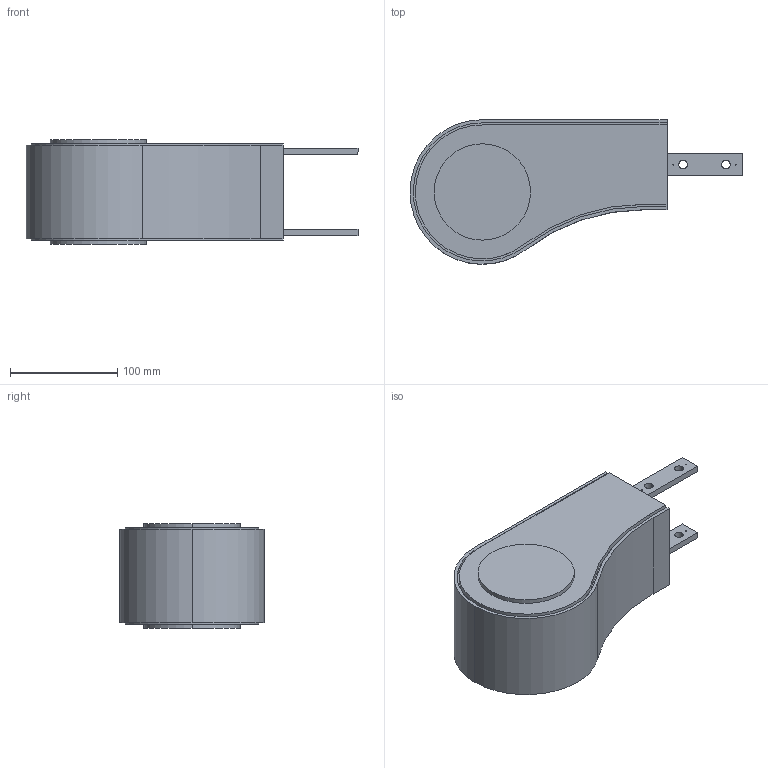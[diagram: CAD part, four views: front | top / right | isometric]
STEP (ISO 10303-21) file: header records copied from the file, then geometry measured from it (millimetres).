
FILE_DESCRIPTION (( 'STEP AP214' ), '1' );
FILE_NAME ('927749 CS090SL Omloopsectie.STEP', '2014-03-20T14:39:17', ( 'Beheerder' ), ( '' ), 'SwSTEP 2.0', 'SolidWorks 2012', '' );
FILE_SCHEMA (( 'AUTOMOTIVE_DESIGN' ));
Length unit declared in the file: millimetre
Products named in the file (1): 927749 CS090SL Omloopsectie
Bounding box: 310 x 134.96 x 98 mm (x, y, z)
Volume: 2288696.7 mm3; surface area: 124802.6 mm2
Topology: 1 solids, 1 shells, 60 faces, 162 edges, 108 vertices
Faces by surface type: cylinder 31, plane 29
Entity records: 1974 total; most frequent: DIRECTION 346, CARTESIAN_POINT 331, ORIENTED_EDGE 324, EDGE_CURVE 162, AXIS2_PLACEMENT_3D 123, VERTEX_POINT 108, LINE 100, VECTOR 100
